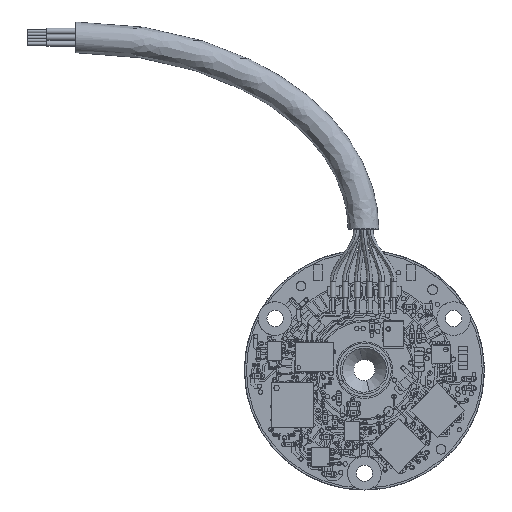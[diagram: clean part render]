
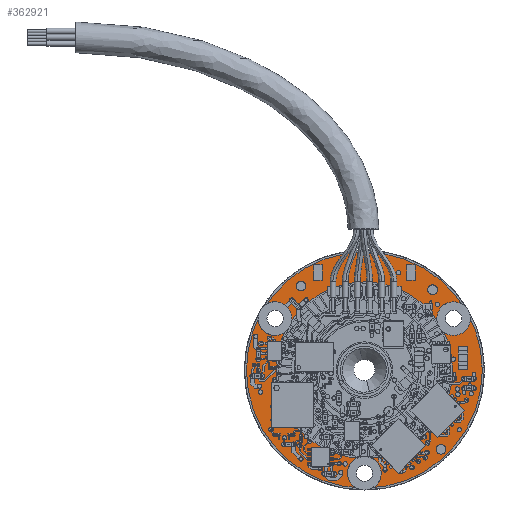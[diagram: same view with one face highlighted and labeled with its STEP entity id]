
A CAD part, front view. The second image highlights one B-rep face of the part: STEP entity #362921.
In plain terms, the highlighted planar face has unit normal (0, 1, 0).
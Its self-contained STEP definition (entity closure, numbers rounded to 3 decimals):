
#10712 = AXIS2_PLACEMENT_3D ( 'NONE', #367767, #217592, #67535 ) ;
#12443 = ORIENTED_EDGE ( 'NONE', *, *, #108264, .F. ) ;
#15093 = CARTESIAN_POINT ( 'NONE',  ( -9.31, 2.17, 5.375 ) ) ;
#18889 = CIRCLE ( 'NONE', #239481, 9.2 ) ;
#21671 = CIRCLE ( 'NONE', #147528, 12.3 ) ;
#27458 = DIRECTION ( 'NONE',  ( 0., 1., 0. ) ) ;
#27569 = CARTESIAN_POINT ( 'NONE',  ( 0., 2.17, 0. ) ) ;
#28898 = ORIENTED_EDGE ( 'NONE', *, *, #220088, .F. ) ;
#34694 = CARTESIAN_POINT ( 'NONE',  ( 9.31, 2.17, 4.525 ) ) ;
#43303 = DIRECTION ( 'NONE',  ( 0., 1., 0. ) ) ;
#51172 = CARTESIAN_POINT ( 'NONE',  ( 9.31, 2.17, 6.225 ) ) ;
#59725 = ORIENTED_EDGE ( 'NONE', *, *, #360300, .F. ) ;
#67535 = DIRECTION ( 'NONE',  ( 0., 0., 1. ) ) ;
#81041 = CARTESIAN_POINT ( 'NONE',  ( 0., 2.17, -10.75 ) ) ;
#87562 = DIRECTION ( 'NONE',  ( 0., 1., 0. ) ) ;
#94683 = CARTESIAN_POINT ( 'NONE',  ( 0., 2.17, -9.9 ) ) ;
#98861 = FACE_OUTER_BOUND ( 'NONE', #181745, .T. ) ;
#104828 = EDGE_CURVE ( 'NONE', #361170, #296860, #322983, .T. ) ;
#108264 = EDGE_CURVE ( 'NONE', #164663, #211450, #199036, .T. ) ;
#109884 = DIRECTION ( 'NONE',  ( 0., 1., 0. ) ) ;
#116161 = DIRECTION ( 'NONE',  ( 0., 1., 0. ) ) ;
#122070 = CARTESIAN_POINT ( 'NONE',  ( 9.31, 2.17, 5.375 ) ) ;
#128404 = FACE_BOUND ( 'NONE', #352874, .T. ) ;
#136304 = DIRECTION ( 'NONE',  ( 0., 1., 0. ) ) ;
#141558 = EDGE_LOOP ( 'NONE', ( #28898, #302698 ) ) ;
#142420 = AXIS2_PLACEMENT_3D ( 'NONE', #81041, #136304, #201384 ) ;
#146285 = VERTEX_POINT ( 'NONE', #220048 ) ;
#147528 = AXIS2_PLACEMENT_3D ( 'NONE', #231745, #87562, #263265 ) ;
#148499 = VERTEX_POINT ( 'NONE', #367582 ) ;
#152367 = AXIS2_PLACEMENT_3D ( 'NONE', #15093, #340921, #190772 ) ;
#152668 = AXIS2_PLACEMENT_3D ( 'NONE', #261919, #109884, #232311 ) ;
#158522 = ORIENTED_EDGE ( 'NONE', *, *, #338922, .T. ) ;
#163964 = DIRECTION ( 'NONE',  ( 0., 1., 0. ) ) ;
#164070 = EDGE_CURVE ( 'NONE', #146285, #370999, #235361, .T. ) ;
#164253 = EDGE_LOOP ( 'NONE', ( #198119, #179946 ) ) ;
#164663 = VERTEX_POINT ( 'NONE', #358110 ) ;
#173530 = EDGE_CURVE ( 'NONE', #352693, #286760, #197938, .T. ) ;
#176216 = CARTESIAN_POINT ( 'NONE',  ( 0., 2.17, -12.3 ) ) ;
#179946 = ORIENTED_EDGE ( 'NONE', *, *, #212336, .F. ) ;
#181745 = EDGE_LOOP ( 'NONE', ( #266983, #158522 ) ) ;
#184559 = CIRCLE ( 'NONE', #342482, 0.85 ) ;
#190772 = DIRECTION ( 'NONE',  ( 0., 0., 1. ) ) ;
#190811 = ORIENTED_EDGE ( 'NONE', *, *, #293644, .F. ) ;
#194941 = EDGE_LOOP ( 'NONE', ( #59725, #12443 ) ) ;
#195225 = DIRECTION ( 'NONE',  ( 0., 0., 1. ) ) ;
#197938 = CIRCLE ( 'NONE', #216873, 0.85 ) ;
#198119 = ORIENTED_EDGE ( 'NONE', *, *, #217750, .F. ) ;
#199036 = CIRCLE ( 'NONE', #142420, 0.85 ) ;
#199653 = CARTESIAN_POINT ( 'NONE',  ( 0., 2.17, -9.2 ) ) ;
#201384 = DIRECTION ( 'NONE',  ( 0., 0., 1. ) ) ;
#210856 = DIRECTION ( 'NONE',  ( 0., 0., 1. ) ) ;
#211450 = VERTEX_POINT ( 'NONE', #94683 ) ;
#212336 = EDGE_CURVE ( 'NONE', #148499, #237843, #344752, .T. ) ;
#216873 = AXIS2_PLACEMENT_3D ( 'NONE', #329468, #116161, #363037 ) ;
#216939 = DIRECTION ( 'NONE',  ( 0., 1., 0. ) ) ;
#217592 = DIRECTION ( 'NONE',  ( 0., 1., 0. ) ) ;
#217750 = EDGE_CURVE ( 'NONE', #237843, #148499, #18889, .T. ) ;
#220048 = CARTESIAN_POINT ( 'NONE',  ( -9.31, 2.17, 4.525 ) ) ;
#220088 = EDGE_CURVE ( 'NONE', #370999, #146285, #253002, .T. ) ;
#224244 = AXIS2_PLACEMENT_3D ( 'NONE', #288208, #163964, #315967 ) ;
#231745 = CARTESIAN_POINT ( 'NONE',  ( 0., 2.17, 0. ) ) ;
#232311 = DIRECTION ( 'NONE',  ( 0., 0., 1. ) ) ;
#235361 = CIRCLE ( 'NONE', #342595, 0.85 ) ;
#237843 = VERTEX_POINT ( 'NONE', #199653 ) ;
#239481 = AXIS2_PLACEMENT_3D ( 'NONE', #27569, #385020, #268330 ) ;
#241110 = FACE_BOUND ( 'NONE', #164253, .T. ) ;
#248866 = FACE_BOUND ( 'NONE', #141558, .T. ) ;
#252482 = CIRCLE ( 'NONE', #328123, 0.85 ) ;
#253002 = CIRCLE ( 'NONE', #152367, 0.85 ) ;
#261919 = CARTESIAN_POINT ( 'NONE',  ( 0., 2.17, 0. ) ) ;
#263265 = DIRECTION ( 'NONE',  ( 0., 0., 1. ) ) ;
#266983 = ORIENTED_EDGE ( 'NONE', *, *, #104828, .T. ) ;
#268330 = DIRECTION ( 'NONE',  ( 0., 0., 1. ) ) ;
#274256 = DIRECTION ( 'NONE',  ( 0., 0., 1. ) ) ;
#276676 = ORIENTED_EDGE ( 'NONE', *, *, #173530, .F. ) ;
#286760 = VERTEX_POINT ( 'NONE', #51172 ) ;
#288208 = CARTESIAN_POINT ( 'NONE',  ( 0., 2.17, 0. ) ) ;
#293644 = EDGE_CURVE ( 'NONE', #286760, #352693, #252482, .T. ) ;
#296860 = VERTEX_POINT ( 'NONE', #388355 ) ;
#302698 = ORIENTED_EDGE ( 'NONE', *, *, #164070, .F. ) ;
#303935 = CARTESIAN_POINT ( 'NONE',  ( 0., 2.17, -10.75 ) ) ;
#308193 = FACE_BOUND ( 'NONE', #194941, .T. ) ;
#315967 = DIRECTION ( 'NONE',  ( 0., 0., 1. ) ) ;
#322983 = CIRCLE ( 'NONE', #152668, 12.3 ) ;
#328123 = AXIS2_PLACEMENT_3D ( 'NONE', #122070, #27458, #210856 ) ;
#329468 = CARTESIAN_POINT ( 'NONE',  ( 9.31, 2.17, 5.375 ) ) ;
#330054 = PLANE ( 'NONE',  #224244 ) ;
#338922 = EDGE_CURVE ( 'NONE', #296860, #361170, #21671, .T. ) ;
#340921 = DIRECTION ( 'NONE',  ( 0., 1., 0. ) ) ;
#342482 = AXIS2_PLACEMENT_3D ( 'NONE', #303935, #216939, #274256 ) ;
#342595 = AXIS2_PLACEMENT_3D ( 'NONE', #347380, #43303, #195225 ) ;
#344752 = CIRCLE ( 'NONE', #10712, 9.2 ) ;
#347380 = CARTESIAN_POINT ( 'NONE',  ( -9.31, 2.17, 5.375 ) ) ;
#352693 = VERTEX_POINT ( 'NONE', #34694 ) ;
#352874 = EDGE_LOOP ( 'NONE', ( #190811, #276676 ) ) ;
#358110 = CARTESIAN_POINT ( 'NONE',  ( 0., 2.17, -11.6 ) ) ;
#360300 = EDGE_CURVE ( 'NONE', #211450, #164663, #184559, .T. ) ;
#361170 = VERTEX_POINT ( 'NONE', #176216 ) ;
#362921 = ADVANCED_FACE ( 'NONE', ( #308193, #128404, #248866, #98861, #241110 ), #330054, .T. ) ;
#363037 = DIRECTION ( 'NONE',  ( 0., 0., 1. ) ) ;
#367582 = CARTESIAN_POINT ( 'NONE',  ( 0., 2.17, 9.2 ) ) ;
#367767 = CARTESIAN_POINT ( 'NONE',  ( 0., 2.17, 0. ) ) ;
#370999 = VERTEX_POINT ( 'NONE', #374064 ) ;
#374064 = CARTESIAN_POINT ( 'NONE',  ( -9.31, 2.17, 6.225 ) ) ;
#385020 = DIRECTION ( 'NONE',  ( 0., 1., 0. ) ) ;
#388355 = CARTESIAN_POINT ( 'NONE',  ( 0., 2.17, 12.3 ) ) ;
